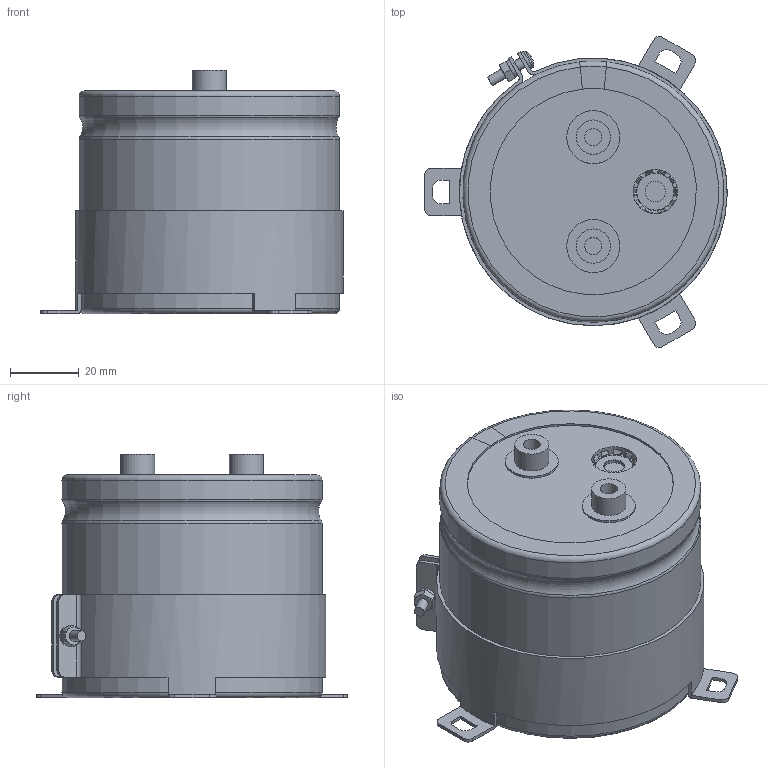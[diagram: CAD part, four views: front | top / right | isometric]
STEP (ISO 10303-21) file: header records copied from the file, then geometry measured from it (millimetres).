
FILE_DESCRIPTION(/* description */ (''),/* implementation_level */ '2;1');
FILE_NAME(/* name */ '76.2x65_Screw.stp',/* time_stamp */ '2017-09-06T16:47:34+09:00',/* author */ (''),/* organization */ (''),/* preprocessor_version */ 'ST-DEVELOPER v16',/* originating_system */ 'SIEMENS PLM Software NX 11.0',/* authorisation */ '');
FILE_SCHEMA (('AUTOMOTIVE_DESIGN { 1 0 10303 214 3 1 1 1 }'));
Length unit declared in the file: millimetre
Products named in the file (1): 76.2x65_Screw
Bounding box: 88.3 x 90.75 x 71 mm (x, y, z)
Volume: 298810.5 mm3; surface area: 77047.1 mm2
Topology: 9 solids, 9 shells, 259 faces, 642 edges, 413 vertices
Faces by surface type: plane 112, cylinder 66, torus 49, cone 31, sphere 1
Full cylindrical faces by diameter (mm): 3 x5, 5 x2, 5.5 x2, 6 x4, 8 x1, 10 x2, 13 x2, 15.5 x2, 75 x2
Entity records: 8534 total; most frequent: CARTESIAN_POINT 2182, DIRECTION 1296, ORIENTED_EDGE 1214, EDGE_CURVE 607, AXIS2_PLACEMENT_3D 541, VERTEX_POINT 408, EDGE_LOOP 317, CIRCLE 281
